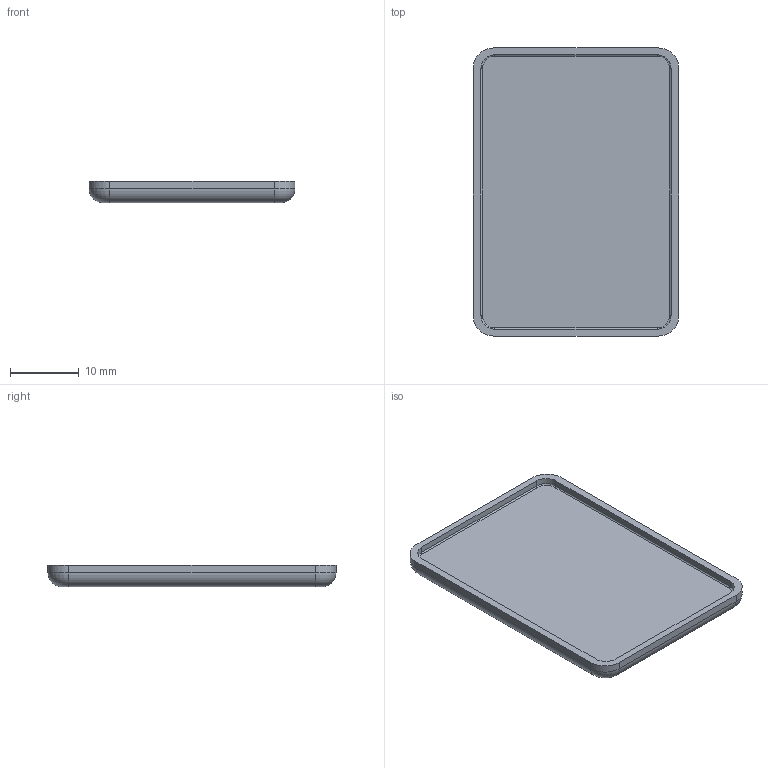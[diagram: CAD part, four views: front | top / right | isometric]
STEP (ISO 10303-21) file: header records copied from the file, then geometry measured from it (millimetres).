
FILE_DESCRIPTION (( 'STEP AP203' ), '1' );
FILE_NAME ('35123120_Abdeckkappe Winkel 6 30x30, grau.step', '2023-10-17T06:06:31', ( '' ), ( '' ), 'SwSTEP 2.0', 'SolidWorks 2021', '' );
FILE_SCHEMA (( 'CONFIG_CONTROL_DESIGN' ));
Length unit declared in the file: millimetre
Products named in the file (1): 35123120_Abdeckkappe Winkel 6 30x30, grau
Bounding box: 29.95 x 41.91 x 3.12 mm (x, y, z)
Volume: 2554.3 mm3; surface area: 2939.1 mm2
Topology: 1 solids, 1 shells, 35 faces, 80 edges, 48 vertices
Faces by surface type: cylinder 16, plane 11, torus 8
Entity records: 1063 total; most frequent: DIRECTION 192, CARTESIAN_POINT 164, ORIENTED_EDGE 160, EDGE_CURVE 80, AXIS2_PLACEMENT_3D 76, VERTEX_POINT 48, CIRCLE 40, VECTOR 40
